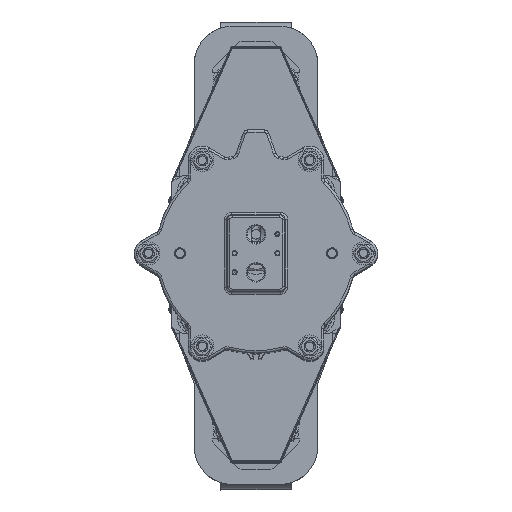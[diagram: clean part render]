
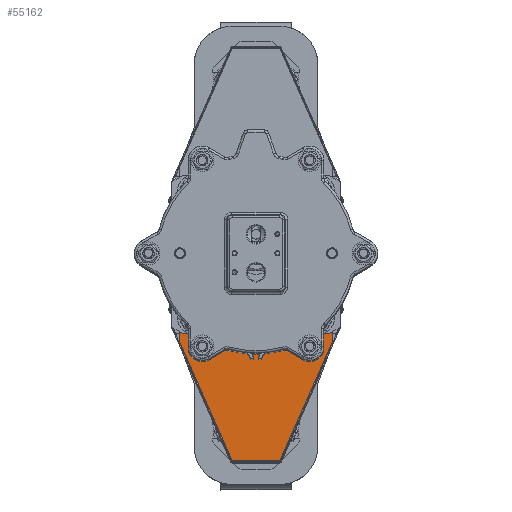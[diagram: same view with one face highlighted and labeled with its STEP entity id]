
A CAD part, top view. The second image highlights one B-rep face of the part: STEP entity #55162.
In plain terms, the highlighted planar face has unit normal (0, 0, 1).
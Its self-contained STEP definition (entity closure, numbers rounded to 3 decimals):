
#4053=PLANE('',#61733);
#7264=FACE_OUTER_BOUND('',#10987,.T.);
#10987=EDGE_LOOP('',(#51622,#51623,#51624,#51625,#51626,#51627));
#18567=LINE('',#115403,#21964);
#18570=LINE('',#115409,#21967);
#18593=LINE('',#115476,#21990);
#18597=LINE('',#115484,#21994);
#18599=LINE('',#115487,#21996);
#18600=LINE('',#115489,#21997);
#21964=VECTOR('',#78121,10.);
#21967=VECTOR('',#78126,10.);
#21990=VECTOR('',#78189,10.);
#21994=VECTOR('',#78197,10.);
#21996=VECTOR('',#78201,10.);
#21997=VECTOR('',#78204,10.);
#27125=VERTEX_POINT('',#115365);
#27137=VERTEX_POINT('',#115402);
#27139=VERTEX_POINT('',#115408);
#27152=VERTEX_POINT('',#115462);
#27155=VERTEX_POINT('',#115474);
#27157=VERTEX_POINT('',#115483);
#35280=EDGE_CURVE('',#27137,#27125,#18567,.T.);
#35283=EDGE_CURVE('',#27139,#27137,#18570,.T.);
#35314=EDGE_CURVE('',#27155,#27152,#18593,.T.);
#35318=EDGE_CURVE('',#27139,#27157,#18597,.T.);
#35320=EDGE_CURVE('',#27157,#27155,#18599,.T.);
#35321=EDGE_CURVE('',#27152,#27125,#18600,.T.);
#51622=ORIENTED_EDGE('',*,*,#35321,.F.);
#51623=ORIENTED_EDGE('',*,*,#35314,.F.);
#51624=ORIENTED_EDGE('',*,*,#35320,.F.);
#51625=ORIENTED_EDGE('',*,*,#35318,.F.);
#51626=ORIENTED_EDGE('',*,*,#35283,.T.);
#51627=ORIENTED_EDGE('',*,*,#35280,.T.);
#55162=ADVANCED_FACE('',(#7264),#4053,.T.);
#61733=AXIS2_PLACEMENT_3D('',#115488,#78202,#78203);
#78121=DIRECTION('',(0.404,-0.915,0.));
#78126=DIRECTION('',(0.,-1.,0.));
#78189=DIRECTION('',(-0.404,-0.915,0.));
#78197=DIRECTION('',(1.,0.,0.));
#78201=DIRECTION('',(0.,-1.,0.));
#78202=DIRECTION('center_axis',(0.,0.,
1.));
#78203=DIRECTION('ref_axis',(1.,0.,0.));
#78204=DIRECTION('',(-1.,0.,0.));
#115365=CARTESIAN_POINT('',(-25.048,-217.15,878.8));
#115402=CARTESIAN_POINT('',(-80.,-92.85,878.8));
#115403=CARTESIAN_POINT('',(-24.738,-217.85,878.8));
#115408=CARTESIAN_POINT('',(-80.,-80.85,878.8));
#115409=CARTESIAN_POINT('',(-80.,-92.85,878.8));
#115462=CARTESIAN_POINT('',(25.048,-217.15,878.8));
#115474=CARTESIAN_POINT('',(80.,-92.85,878.8));
#115476=CARTESIAN_POINT('',(24.738,-217.85,878.8));
#115483=CARTESIAN_POINT('',(80.,-80.85,878.8));
#115484=CARTESIAN_POINT('',(80.,-80.85,878.8));
#115487=CARTESIAN_POINT('',(80.,-92.85,878.8));
#115488=CARTESIAN_POINT('Origin',(29.772,-139.833,878.8));
#115489=CARTESIAN_POINT('',(-14.886,-217.15,878.8));
